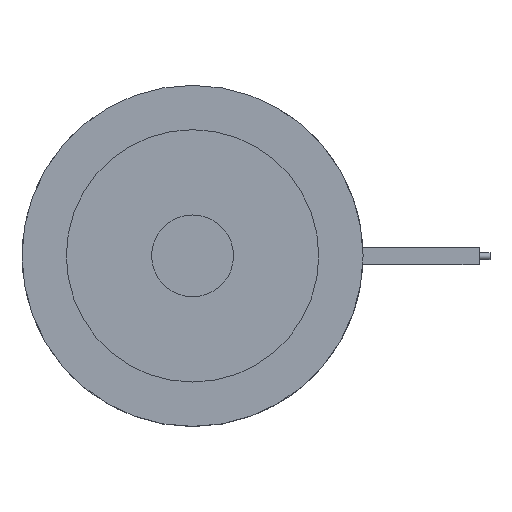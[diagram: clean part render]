
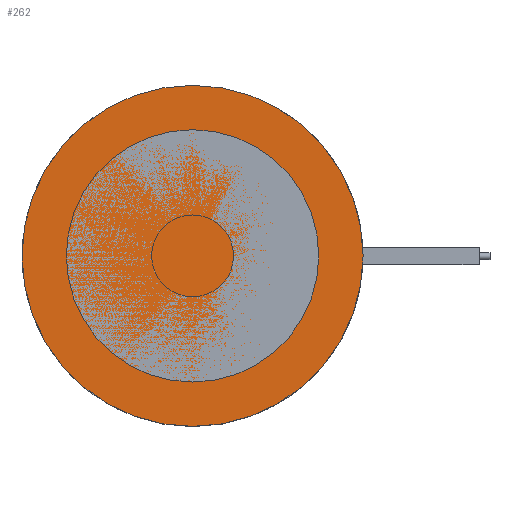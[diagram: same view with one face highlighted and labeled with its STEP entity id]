
A CAD part, top view. The second image highlights one B-rep face of the part: STEP entity #262.
In plain terms, the highlighted planar face has unit normal (0, 0, 1).
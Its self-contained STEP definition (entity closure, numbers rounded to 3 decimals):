
#262=ADVANCED_FACE('',(#343),#297,.F.);
#297=PLANE('',#1165);
#343=FACE_OUTER_BOUND('',#433,.T.);
#433=EDGE_LOOP('',(#737));
#504=CIRCLE('',#1164,25.);
#737=ORIENTED_EDGE('',*,*,#958,.F.);
#837=VERTEX_POINT('',#2047);
#958=EDGE_CURVE('',#837,#837,#504,.T.);
#1164=AXIS2_PLACEMENT_3D('',#2046,#1450,#1451);
#1165=AXIS2_PLACEMENT_3D('',#2048,#1452,#1453);
#1450=DIRECTION('',(0.,0.,-1.));
#1451=DIRECTION('',(-1.,0.,0.));
#1452=DIRECTION('',(0.,0.,-1.));
#1453=DIRECTION('',(-1.,0.,0.));
#2046=CARTESIAN_POINT('',(0.,0.,0.));
#2047=CARTESIAN_POINT('',(-25.,0.,0.));
#2048=CARTESIAN_POINT('',(0.,0.,0.));
